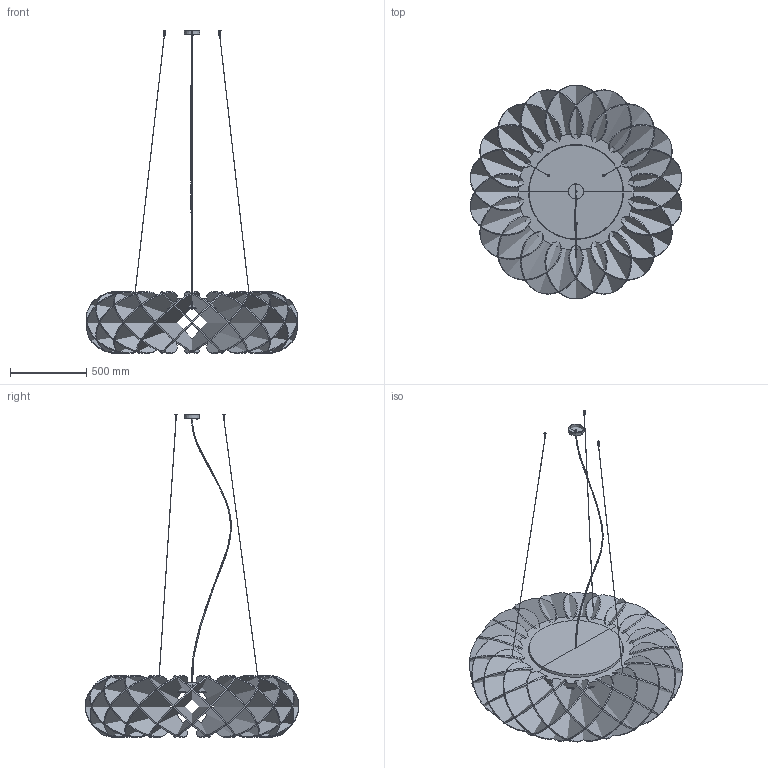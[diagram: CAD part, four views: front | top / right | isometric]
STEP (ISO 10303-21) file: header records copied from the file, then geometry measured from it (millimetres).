
FILE_DESCRIPTION(/* description */ (''),/* implementation_level */ '2;1');
FILE_NAME(/* name */ 'Halo Light 1400_Lumenear_STEP',/* time_stamp */ '2024-11-07T11:33:44+01:00',/* author */ (''),/* organization */ (''),/* preprocessor_version */ 'ST-DEVELOPER v16.5',/* originating_system */ 'Rhino 7.37',/* authorisation */ '');
FILE_SCHEMA (('CONFIG_CONTROL_DESIGN'));
Length unit declared in the file: millimetre
Products named in the file (1): Document
Bounding box: 1384.3 x 1400 x 2114.89 mm (x, y, z)
Volume: 84158423.9 mm3; surface area: 15533280.9 mm2
Topology: 51 solids, 51 shells, 313 faces, 557 edges, 360 vertices
Faces by surface type: plane 140, bspline 105, cylinder 68
Entity records: 25396 total; most frequent: CARTESIAN_POINT 21220, ORIENTED_EDGE 1106, EDGE_CURVE 553, VERTEX_POINT 360, EDGE_LOOP 339, ADVANCED_FACE 313, FACE_OUTER_BOUND 313, B_SPLINE_CURVE_WITH_KNOTS 278
